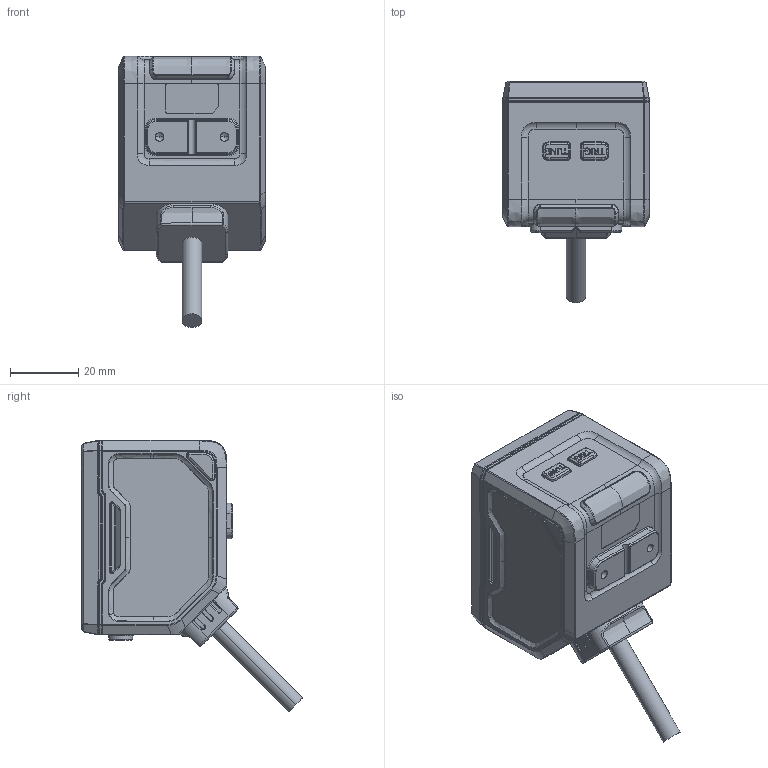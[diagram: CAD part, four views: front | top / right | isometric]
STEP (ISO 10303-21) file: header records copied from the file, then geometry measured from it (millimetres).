
FILE_DESCRIPTION((''),'2;1');
FILE_NAME('DE-13-001865','2024-06-19T10:50:15',('qinyangfan'),(''),'CREO PARAMETRIC BY PTC INC, 2020044','CREO PARAMETRIC BY PTC INC, 2020044','');
FILE_SCHEMA(('CONFIG_CONTROL_DESIGN'));
Products named in the file (1): DE-13-001865
Bounding box: 43.04 x 64.82 x 79.48 mm (x, y, z)
Volume: 96036.5 mm3; surface area: 18749.1 mm2
Topology: 1 solids, 11 shells, 1424 faces, 3611 edges, 2226 vertices
Faces by surface type: plane 496, cylinder 401, bspline 173, cone 127, torus 109, extrusion 94, sphere 24
Entity records: 69283 total; most frequent: CARTESIAN_POINT 36324, ORIENTED_EDGE 7206, DIRECTION 6359, EDGE_CURVE 3603, VERTEX_POINT 2226, AXIS2_PLACEMENT_3D 2212, VECTOR 1935, LINE 1841
